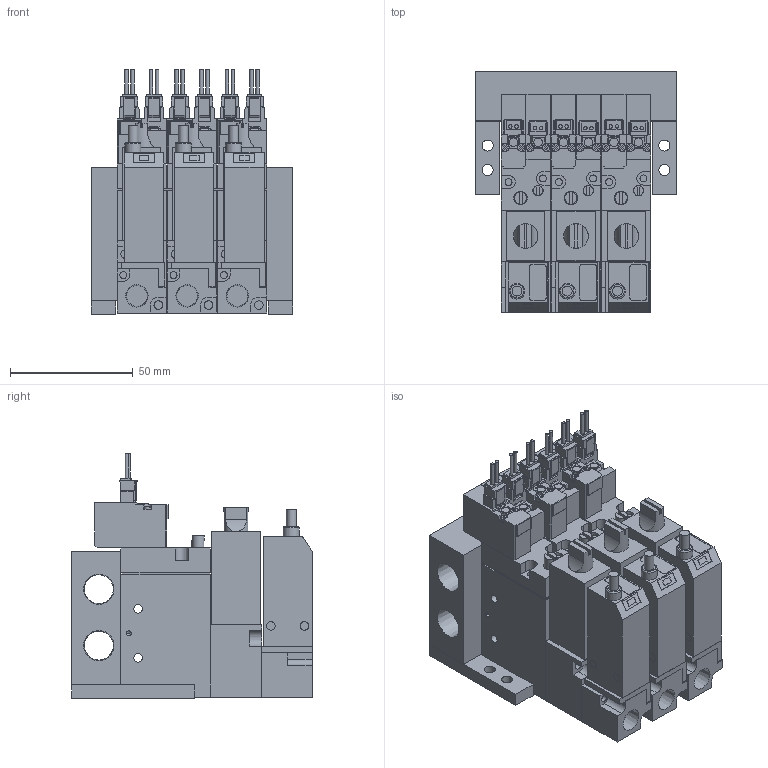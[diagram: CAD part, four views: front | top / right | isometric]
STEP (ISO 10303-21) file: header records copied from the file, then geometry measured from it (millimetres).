
FILE_DESCRIPTION(('STEP AP203'),'1');
FILE_NAME('BMPV32M2NAB25AL303.stp','2025-06-17T00:09:26',(' '),(' '),'Spatial InterOp 3D',' ',' ');
FILE_SCHEMA(('CONFIG_CONTROL_DESIGN'));
Length unit declared in the file: millimetre
Products named in the file (40): BMPV32M2NAB25AL303; Filter Assy; __; _____; MB03; MB BRACKET; Pressure sensor ABSL; ___ ___2; ___-2(Rc); ___; upper plate-A; ______; ____; VACUUM VALVE FUNCTION MPV42-A; UV280-4E
Assembly tree (39 placements, depth 2):
  BMPV32M2NAB25AL303
    Filter Assy
    __
    _____
    Filter Assy
    __
    _____
    MB03
    MB BRACKET
    MB BRACKET
    Filter Assy
    __
    _____
    Pressure sensor ABSL
    ___ ___2
    ___-2(Rc)
    ___-2(Rc)
    ___ ___2
    Pressure sensor ABSL
    ___-2(Rc)
    ___ ___2
    Pressure sensor ABSL
    ___
    upper plate-A
    ______
    ____
    VACUUM VALVE FUNCTION MPV42-A
    ___
    upper plate-A
    ______
    ____
    VACUUM VALVE FUNCTION MPV42-A
    ___
    upper plate-A
    ______
    ____
    VACUUM VALVE FUNCTION MPV42-A
    UV280-4E
    UV280-4E
    UV280-4E
Bounding box: 82 x 98 x 99.75 mm (x, y, z)
Volume: 371492.1 mm3; surface area: 123930.3 mm2
Topology: 39 solids, 39 shells, 1211 faces, 3133 edges, 2074 vertices
Faces by surface type: plane 963, cylinder 219, cone 26, torus 3
Full cylindrical faces by diameter (mm): 1.4 x12, 1.8 x6, 2 x6, 2.5 x10, 2.8 x12, 3 x12, 3.5 x40, 4 x6, 4.2 x3, 4.5 x4, 5 x3, 5.5 x3, 6.5 x9, 8.522 x3, 11.776 x2
Entity records: 37830 total; most frequent: CARTESIAN_POINT 6438, DIRECTION 5952, ORIENTED_EDGE 5842, EDGE_CURVE 2921, LINE 2368, VECTOR 2368, VERTEX_POINT 2044, AXIS2_PLACEMENT_3D 1792
